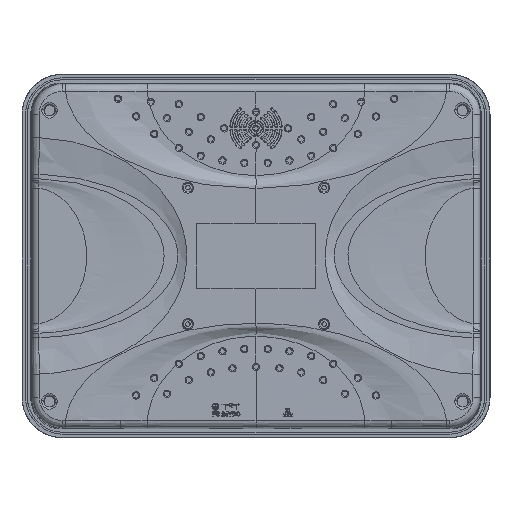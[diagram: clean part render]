
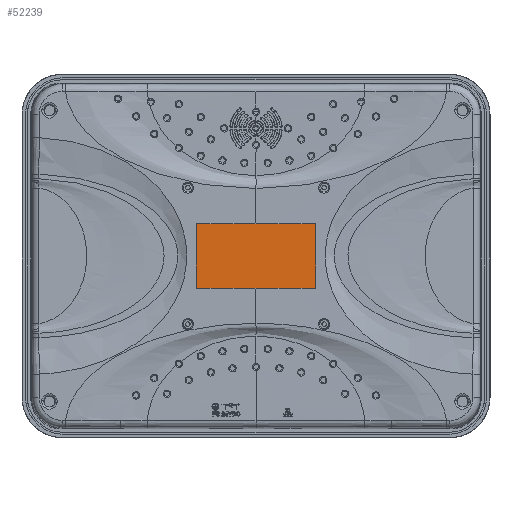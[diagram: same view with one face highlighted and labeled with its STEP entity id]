
A CAD part, top view. The second image highlights one B-rep face of the part: STEP entity #52239.
In plain terms, the highlighted planar face has unit normal (0, 0, 1).
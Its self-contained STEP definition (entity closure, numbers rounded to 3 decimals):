
#9471 = VECTOR ( 'NONE', #53623, 1000. ) ;
#9473 = VECTOR ( 'NONE', #53600, 1000. ) ;
#9475 = VECTOR ( 'NONE', #53630, 1000. ) ;
#9477 = VECTOR ( 'NONE', #53636, 1000. ) ;
#9603 = AXIS2_PLACEMENT_3D ( 'NONE', #70512, #70519, #70520 ) ;
#45804 = CARTESIAN_POINT ( 'NONE',  ( -32.75, 16.75, 28.4 ) ) ;
#45808 = CARTESIAN_POINT ( 'NONE',  ( 32.75, -18.75, 28.4 ) ) ;
#45818 = CARTESIAN_POINT ( 'NONE',  ( -32.75, -18.75, 28.4 ) ) ;
#45820 = CARTESIAN_POINT ( 'NONE',  ( 32.75, 16.75, 28.4 ) ) ;
#51074 = VERTEX_POINT ( 'NONE', #45804 ) ;
#51076 = VERTEX_POINT ( 'NONE', #45808 ) ;
#51081 = VERTEX_POINT ( 'NONE', #45818 ) ;
#51082 = VERTEX_POINT ( 'NONE', #45820 ) ;
#51939 = EDGE_CURVE ( 'NONE', #51076, #51081, #53584, .T. ) ;
#51942 = EDGE_CURVE ( 'NONE', #51082, #51076, #53614, .T. ) ;
#51943 = EDGE_CURVE ( 'NONE', #51074, #51082, #53610, .T. ) ;
#51944 = EDGE_CURVE ( 'NONE', #51081, #51074, #53612, .T. ) ;
#52239 = ADVANCED_FACE ( 'NONE', ( #70516 ), #70517, .F. ) ;
#52689 = EDGE_LOOP ( 'NONE', ( #53457, #53459, #53461, #53463 ) ) ;
#53457 = ORIENTED_EDGE ( 'NONE', *, *, #51942, .F. ) ;
#53459 = ORIENTED_EDGE ( 'NONE', *, *, #51943, .F. ) ;
#53461 = ORIENTED_EDGE ( 'NONE', *, *, #51944, .F. ) ;
#53463 = ORIENTED_EDGE ( 'NONE', *, *, #51939, .F. ) ;
#53584 = LINE ( 'NONE', #53596, #9473 ) ;
#53592 = CARTESIAN_POINT ( 'NONE',  ( 32.75, -18.75, 28.4 ) ) ;
#53596 = CARTESIAN_POINT ( 'NONE',  ( -32.75, -18.75, 28.4 ) ) ;
#53600 = DIRECTION ( 'NONE',  ( -1., 0., 0. ) ) ;
#53610 = LINE ( 'NONE', #53625, #9475 ) ;
#53612 = LINE ( 'NONE', #53632, #9477 ) ;
#53614 = LINE ( 'NONE', #53592, #9471 ) ;
#53623 = DIRECTION ( 'NONE',  ( 0., -1., 0. ) ) ;
#53625 = CARTESIAN_POINT ( 'NONE',  ( -32.75, 16.75, 28.4 ) ) ;
#53630 = DIRECTION ( 'NONE',  ( 1., 0., 0. ) ) ;
#53632 = CARTESIAN_POINT ( 'NONE',  ( -32.75, -18.75, 28.4 ) ) ;
#53636 = DIRECTION ( 'NONE',  ( 0., 1., 0. ) ) ;
#70512 = CARTESIAN_POINT ( 'NONE',  ( 32.75, 16.75, 28.4 ) ) ;
#70516 = FACE_OUTER_BOUND ( 'NONE', #52689, .T. ) ;
#70517 = PLANE ( 'NONE',  #9603 ) ;
#70519 = DIRECTION ( 'NONE',  ( 0., 0., -1. ) ) ;
#70520 = DIRECTION ( 'NONE',  ( -1., 0., 0. ) ) ;
